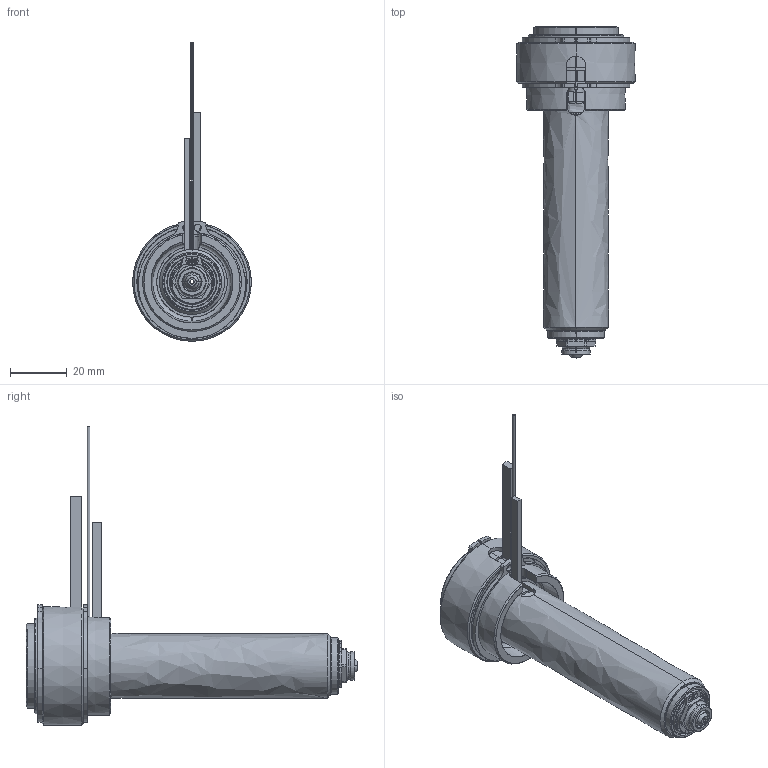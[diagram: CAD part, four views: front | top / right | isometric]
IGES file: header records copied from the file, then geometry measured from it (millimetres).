
Start section: SolidWorks IGES file using analytic representation for surfaces
Global section: file name: C:\Documents and Settings\ws-20\Desktop\TEM\UGER3552-M-A-0 [Øb-1.50  ØC-6.0].IGS; native system: SolidWorks 2012; preprocessor: SolidWorks 2012; author: ws-20; date: 120410.094405; units: millimetre
Bounding box: 42 x 117.4 x 105.6 mm (x, y, z)
Surface area: 37062 mm2 (no closed solid volume)
Topology: 0 solids, 0 shells, 198 faces, 3252 edges, 3252 vertices
Faces by surface type: revolution 127, bspline 71
